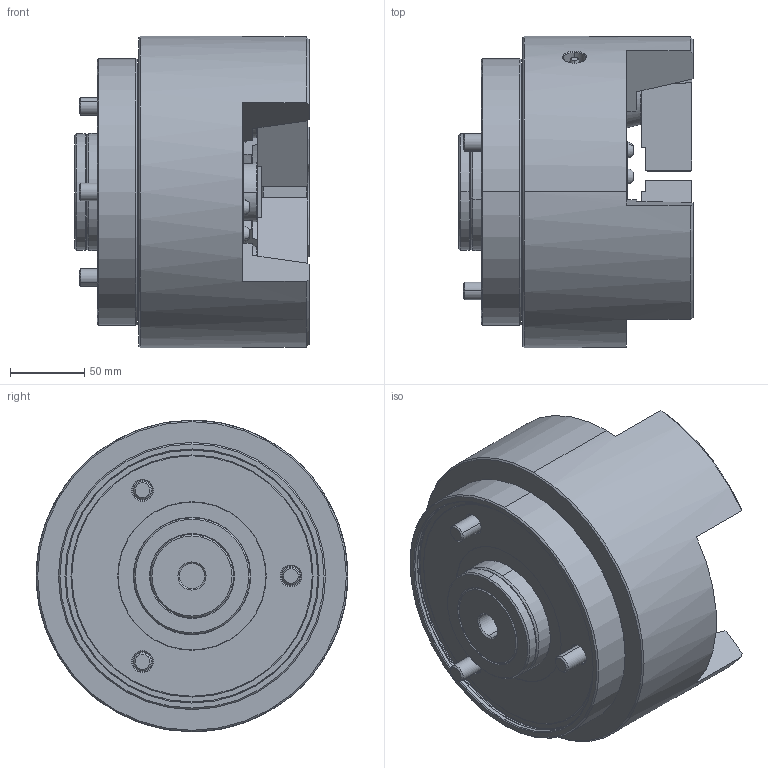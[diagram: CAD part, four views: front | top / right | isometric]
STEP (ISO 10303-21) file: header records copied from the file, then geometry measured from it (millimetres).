
FILE_DESCRIPTION (( 'STEP AP214' ), '1' );
FILE_NAME ('PUB208_OC.STEP', '2019-10-25T04:22:10', ( '' ), ( '' ), 'SwSTEP 2.0', 'SolidWorks 2017', '' );
FILE_SCHEMA (( 'AUTOMOTIVE_DESIGN' ));
Length unit declared in the file: millimetre
Products named in the file (4): 結合; 0030112030; 61P332356; PUB208_OC
Assembly tree (7 placements, depth 2):
  PUB208_OC
    61P332356  x3
    0030112030  x3
    結合
Bounding box: 158 x 210 x 210 mm (x, y, z)
Volume: 3450253.9 mm3; surface area: 268157.3 mm2
Topology: 7 solids, 7 shells, 998 faces, 2503 edges, 1580 vertices
Faces by surface type: plane 483, cone 180, bspline 168, cylinder 134, torus 33
Entity records: 34862 total; most frequent: CARTESIAN_POINT 14403, ORIENTED_EDGE 4510, DIRECTION 3667, EDGE_CURVE 2255, VERTEX_POINT 1442, LINE 1267, VECTOR 1267, AXIS2_PLACEMENT_3D 1200
